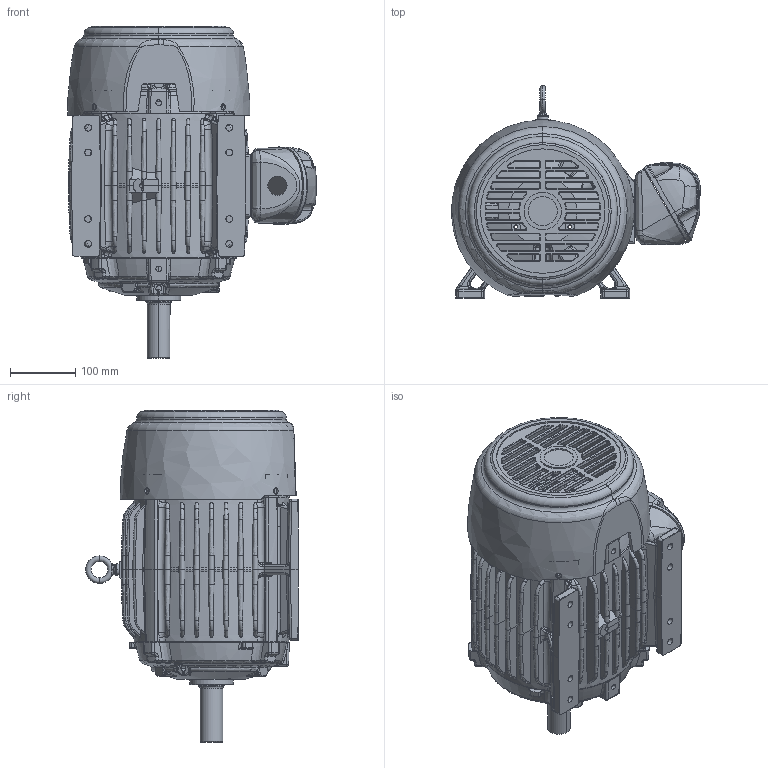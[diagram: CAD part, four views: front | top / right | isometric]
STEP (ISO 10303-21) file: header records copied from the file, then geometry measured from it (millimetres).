
FILE_DESCRIPTION((''),'2;1');
FILE_NAME('8P10P2C_ASM','2014-06-17T',('NMC779F'),('Nidec Motor Corporation'),'PRO/ENGINEER BY PARAMETRIC TECHNOLOGY CORPORATION, 2013150','PRO/ENGINEER BY PARAMETRIC TECHNOLOGY CORPORATION, 2013150','');
FILE_SCHEMA(('CONFIG_CONTROL_DESIGN'));
Products named in the file (15): 0955700_81; 0987078_284; 0987077_284; MANIFOLD_SOLID_BREP_126418; MANIFOLD_SOLID_BREP_127107; MANIFOLD_SOLID_BREP_127796; 0345787_17_ASM; 210_INPRO_4; 0987071_246; 0376440_59; 0076666_32; 0075615_13; 0133167_1; GP_ASSY_ASM_23_ASM; 8P10P2C_ASM
Assembly tree (14 placements, depth 4):
  8P10P2C_ASM
    GP_ASSY_ASM_23_ASM
      0955700_81
      0987078_284
      0987077_284
      0345787_17_ASM
        MANIFOLD_SOLID_BREP_126418
        MANIFOLD_SOLID_BREP_127107
        MANIFOLD_SOLID_BREP_127796
      210_INPRO_4
      0987071_246
      0376440_59
      0076666_32
      0075615_13
      0133167_1
Bounding box: 380.95 x 325.33 x 507.98 mm (x, y, z)
Volume: 5959922.9 mm3; surface area: 1377533.3 mm2
Topology: 12 solids, 12 shells, 3756 faces, 9490 edges, 5563 vertices
Faces by surface type: bspline 1150, cylinder 861, torus 605, plane 564, cone 349, sphere 227
Entity records: 172918 total; most frequent: CARTESIAN_POINT 93266, ORIENTED_EDGE 18550, DIRECTION 14186, EDGE_CURVE 9275, AXIS2_PLACEMENT_3D 6122, VERTEX_POINT 5561, EDGE_LOOP 3934, B_SPLINE_CURVE_WITH_KNOTS 3859
